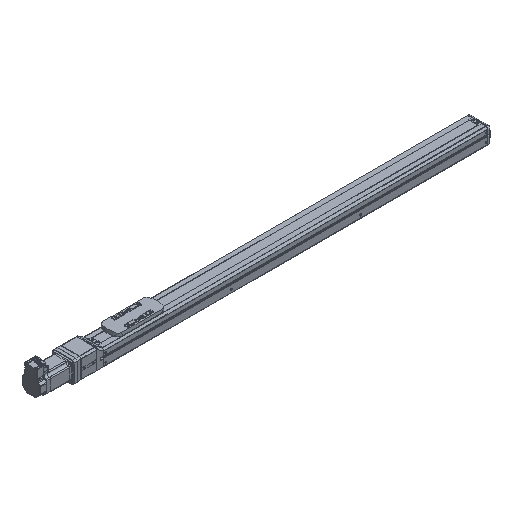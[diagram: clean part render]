
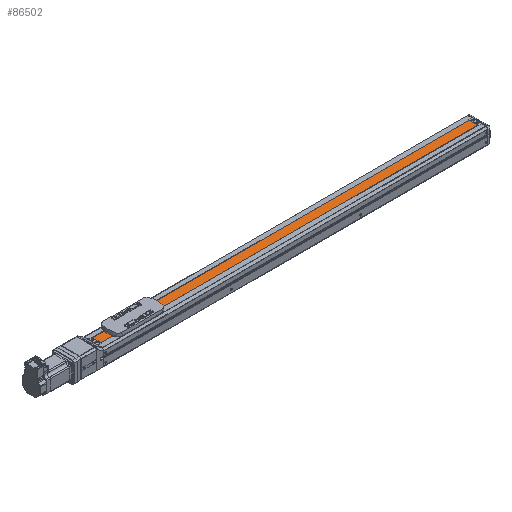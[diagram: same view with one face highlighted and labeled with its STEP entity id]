
A CAD part, isometric view. The second image highlights one B-rep face of the part: STEP entity #86502.
In plain terms, the highlighted planar face has unit normal (0, 0, 1) as drawn and (0, 1, 0) by its records, which use the part's own axes.
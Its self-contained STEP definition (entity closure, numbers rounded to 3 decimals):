
#86502 = ADVANCED_FACE('',(#86503),#86517,.T.);
#86503 = FACE_BOUND('',#86504,.T.);
#86504 = EDGE_LOOP('',(#86505,#86540,#86568,#86596));
#86505 = ORIENTED_EDGE('',*,*,#86506,.F.);
#86506 = EDGE_CURVE('',#86507,#86509,#86511,.T.);
#86507 = VERTEX_POINT('',#86508);
#86508 = CARTESIAN_POINT('',(-1130.5,18.,-13.));
#86509 = VERTEX_POINT('',#86510);
#86510 = CARTESIAN_POINT('',(-21.5,18.,-13.));
#86511 = SURFACE_CURVE('',#86512,(#86516,#86528),.PCURVE_S1.);
#86512 = LINE('',#86513,#86514);
#86513 = CARTESIAN_POINT('',(-1130.5,18.,-13.));
#86514 = VECTOR('',#86515,1.);
#86515 = DIRECTION('',(1.,0.,0.));
#86516 = PCURVE('',#86517,#86522);
#86517 = PLANE('',#86518);
#86518 = AXIS2_PLACEMENT_3D('',#86519,#86520,#86521);
#86519 = CARTESIAN_POINT('',(-1140.5,18.,-26.583));
#86520 = DIRECTION('',(0.,1.,0.));
#86521 = DIRECTION('',(0.,-0.,1.));
#86522 = DEFINITIONAL_REPRESENTATION('',(#86523),#86527);
#86523 = LINE('',#86524,#86525);
#86524 = CARTESIAN_POINT('',(13.583,10.));
#86525 = VECTOR('',#86526,1.);
#86526 = DIRECTION('',(0.,1.));
#86527 = ( GEOMETRIC_REPRESENTATION_CONTEXT(2) 
PARAMETRIC_REPRESENTATION_CONTEXT() REPRESENTATION_CONTEXT('2D SPACE',''
  ) );
#86528 = PCURVE('',#86529,#86534);
#86529 = PLANE('',#86530);
#86530 = AXIS2_PLACEMENT_3D('',#86531,#86532,#86533);
#86531 = CARTESIAN_POINT('',(-1130.5,18.,-13.));
#86532 = DIRECTION('',(0.,0.,1.));
#86533 = DIRECTION('',(1.,0.,-0.));
#86534 = DEFINITIONAL_REPRESENTATION('',(#86535),#86539);
#86535 = LINE('',#86536,#86537);
#86536 = CARTESIAN_POINT('',(0.,0.));
#86537 = VECTOR('',#86538,1.);
#86538 = DIRECTION('',(1.,0.));
#86539 = ( GEOMETRIC_REPRESENTATION_CONTEXT(2) 
PARAMETRIC_REPRESENTATION_CONTEXT() REPRESENTATION_CONTEXT('2D SPACE',''
  ) );
#86540 = ORIENTED_EDGE('',*,*,#86541,.T.);
#86541 = EDGE_CURVE('',#86507,#86542,#86544,.T.);
#86542 = VERTEX_POINT('',#86543);
#86543 = CARTESIAN_POINT('',(-1130.5,18.,13.));
#86544 = SURFACE_CURVE('',#86545,(#86549,#86556),.PCURVE_S1.);
#86545 = LINE('',#86546,#86547);
#86546 = CARTESIAN_POINT('',(-1130.5,18.,-26.583));
#86547 = VECTOR('',#86548,1.);
#86548 = DIRECTION('',(0.,0.,1.));
#86549 = PCURVE('',#86517,#86550);
#86550 = DEFINITIONAL_REPRESENTATION('',(#86551),#86555);
#86551 = LINE('',#86552,#86553);
#86552 = CARTESIAN_POINT('',(0.,10.));
#86553 = VECTOR('',#86554,1.);
#86554 = DIRECTION('',(1.,0.));
#86555 = ( GEOMETRIC_REPRESENTATION_CONTEXT(2) 
PARAMETRIC_REPRESENTATION_CONTEXT() REPRESENTATION_CONTEXT('2D SPACE',''
  ) );
#86556 = PCURVE('',#86557,#86562);
#86557 = PLANE('',#86558);
#86558 = AXIS2_PLACEMENT_3D('',#86559,#86560,#86561);
#86559 = CARTESIAN_POINT('',(-1130.5,0.,0.));
#86560 = DIRECTION('',(1.,0.,0.));
#86561 = DIRECTION('',(0.,0.,-1.));
#86562 = DEFINITIONAL_REPRESENTATION('',(#86563),#86567);
#86563 = LINE('',#86564,#86565);
#86564 = CARTESIAN_POINT('',(26.583,18.));
#86565 = VECTOR('',#86566,1.);
#86566 = DIRECTION('',(-1.,0.));
#86567 = ( GEOMETRIC_REPRESENTATION_CONTEXT(2) 
PARAMETRIC_REPRESENTATION_CONTEXT() REPRESENTATION_CONTEXT('2D SPACE',''
  ) );
#86568 = ORIENTED_EDGE('',*,*,#86569,.T.);
#86569 = EDGE_CURVE('',#86542,#86570,#86572,.T.);
#86570 = VERTEX_POINT('',#86571);
#86571 = CARTESIAN_POINT('',(-21.5,18.,13.));
#86572 = SURFACE_CURVE('',#86573,(#86577,#86584),.PCURVE_S1.);
#86573 = LINE('',#86574,#86575);
#86574 = CARTESIAN_POINT('',(-1130.5,18.,13.));
#86575 = VECTOR('',#86576,1.);
#86576 = DIRECTION('',(1.,0.,0.));
#86577 = PCURVE('',#86517,#86578);
#86578 = DEFINITIONAL_REPRESENTATION('',(#86579),#86583);
#86579 = LINE('',#86580,#86581);
#86580 = CARTESIAN_POINT('',(39.583,10.));
#86581 = VECTOR('',#86582,1.);
#86582 = DIRECTION('',(0.,1.));
#86583 = ( GEOMETRIC_REPRESENTATION_CONTEXT(2) 
PARAMETRIC_REPRESENTATION_CONTEXT() REPRESENTATION_CONTEXT('2D SPACE',''
  ) );
#86584 = PCURVE('',#86585,#86590);
#86585 = PLANE('',#86586);
#86586 = AXIS2_PLACEMENT_3D('',#86587,#86588,#86589);
#86587 = CARTESIAN_POINT('',(-1130.5,15.,13.));
#86588 = DIRECTION('',(0.,0.,-1.));
#86589 = DIRECTION('',(-1.,0.,0.));
#86590 = DEFINITIONAL_REPRESENTATION('',(#86591),#86595);
#86591 = LINE('',#86592,#86593);
#86592 = CARTESIAN_POINT('',(0.,3.));
#86593 = VECTOR('',#86594,1.);
#86594 = DIRECTION('',(-1.,0.));
#86595 = ( GEOMETRIC_REPRESENTATION_CONTEXT(2) 
PARAMETRIC_REPRESENTATION_CONTEXT() REPRESENTATION_CONTEXT('2D SPACE',''
  ) );
#86596 = ORIENTED_EDGE('',*,*,#86597,.T.);
#86597 = EDGE_CURVE('',#86570,#86509,#86598,.T.);
#86598 = SURFACE_CURVE('',#86599,(#86603,#86610),.PCURVE_S1.);
#86599 = LINE('',#86600,#86601);
#86600 = CARTESIAN_POINT('',(-21.5,18.,-26.583));
#86601 = VECTOR('',#86602,1.);
#86602 = DIRECTION('',(0.,0.,-1.));
#86603 = PCURVE('',#86517,#86604);
#86604 = DEFINITIONAL_REPRESENTATION('',(#86605),#86609);
#86605 = LINE('',#86606,#86607);
#86606 = CARTESIAN_POINT('',(0.,1119.));
#86607 = VECTOR('',#86608,1.);
#86608 = DIRECTION('',(-1.,0.));
#86609 = ( GEOMETRIC_REPRESENTATION_CONTEXT(2) 
PARAMETRIC_REPRESENTATION_CONTEXT() REPRESENTATION_CONTEXT('2D SPACE',''
  ) );
#86610 = PCURVE('',#86611,#86616);
#86611 = PLANE('',#86612);
#86612 = AXIS2_PLACEMENT_3D('',#86613,#86614,#86615);
#86613 = CARTESIAN_POINT('',(-21.5,0.,0.));
#86614 = DIRECTION('',(1.,0.,0.));
#86615 = DIRECTION('',(0.,0.,-1.));
#86616 = DEFINITIONAL_REPRESENTATION('',(#86617),#86621);
#86617 = LINE('',#86618,#86619);
#86618 = CARTESIAN_POINT('',(26.583,18.));
#86619 = VECTOR('',#86620,1.);
#86620 = DIRECTION('',(1.,0.));
#86621 = ( GEOMETRIC_REPRESENTATION_CONTEXT(2) 
PARAMETRIC_REPRESENTATION_CONTEXT() REPRESENTATION_CONTEXT('2D SPACE',''
  ) );
